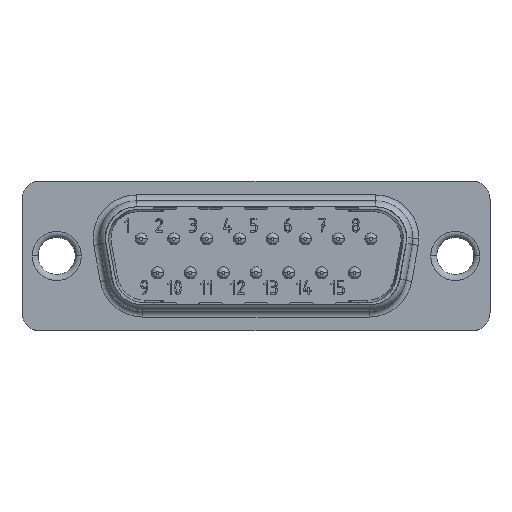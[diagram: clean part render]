
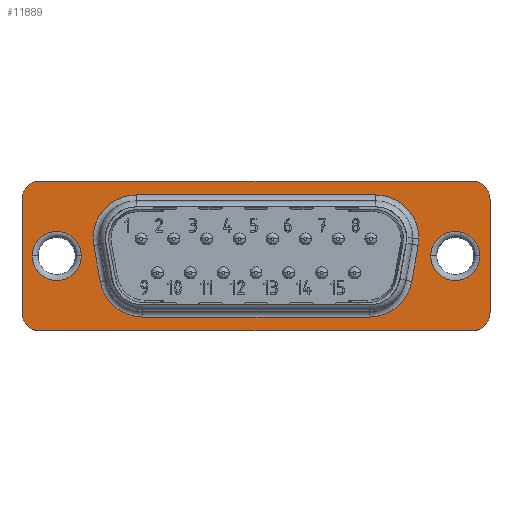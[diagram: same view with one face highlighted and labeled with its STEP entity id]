
A CAD part, top view. The second image highlights one B-rep face of the part: STEP entity #11889.
In plain terms, the highlighted planar face has unit normal (0, 0, 1).
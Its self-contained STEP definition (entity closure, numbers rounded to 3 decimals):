
#11889=ADVANCED_FACE('',(#19796,#19797,#19798,#19799),#13355,.T.);
#13355=PLANE('',#41166);
#15757=LINE('',#53638,#17964);
#15760=LINE('',#53646,#17967);
#15763=LINE('',#53654,#17970);
#15766=LINE('',#53662,#17973);
#15769=LINE('',#53680,#17976);
#15770=LINE('',#53685,#17977);
#15878=LINE('',#54017,#18085);
#15879=LINE('',#54020,#18086);
#17964=VECTOR('',#43949,1.);
#17967=VECTOR('',#43958,1.);
#17970=VECTOR('',#43967,1.);
#17973=VECTOR('',#43976,1.);
#17976=VECTOR('',#44001,1.);
#17977=VECTOR('',#44006,1.);
#18085=VECTOR('',#44326,1.);
#18086=VECTOR('',#44329,1.);
#19796=FACE_BOUND('',#20343,.T.);
#19797=FACE_BOUND('',#20344,.T.);
#19798=FACE_BOUND('',#20345,.T.);
#19799=FACE_BOUND('',#20346,.T.);
#20343=EDGE_LOOP('',(#23576,#23577));
#20344=EDGE_LOOP('',(#23578,#23579));
#20345=EDGE_LOOP('',(#23580,#23581,#23582,#23583,#23584,#23585,#23586,#23587,
#23588));
#20346=EDGE_LOOP('',(#23589,#23590,#23591,#23592,#23593,#23594,#23595,#23596));
#23576=ORIENTED_EDGE('',*,*,#34813,.T.);
#23577=ORIENTED_EDGE('',*,*,#34297,.T.);
#23578=ORIENTED_EDGE('',*,*,#34812,.T.);
#23579=ORIENTED_EDGE('',*,*,#34301,.T.);
#23580=ORIENTED_EDGE('',*,*,#34980,.T.);
#23581=ORIENTED_EDGE('',*,*,#34981,.T.);
#23582=ORIENTED_EDGE('',*,*,#34982,.T.);
#23583=ORIENTED_EDGE('',*,*,#34819,.T.);
#23584=ORIENTED_EDGE('',*,*,#34880,.T.);
#23585=ORIENTED_EDGE('',*,*,#34983,.T.);
#23586=ORIENTED_EDGE('',*,*,#34295,.T.);
#23587=ORIENTED_EDGE('',*,*,#34920,.T.);
#23588=ORIENTED_EDGE('',*,*,#34817,.T.);
#23589=ORIENTED_EDGE('',*,*,#34811,.T.);
#23590=ORIENTED_EDGE('',*,*,#34809,.T.);
#23591=ORIENTED_EDGE('',*,*,#34807,.T.);
#23592=ORIENTED_EDGE('',*,*,#34805,.T.);
#23593=ORIENTED_EDGE('',*,*,#34803,.T.);
#23594=ORIENTED_EDGE('',*,*,#34801,.T.);
#23595=ORIENTED_EDGE('',*,*,#34799,.T.);
#23596=ORIENTED_EDGE('',*,*,#34797,.T.);
#31302=VERTEX_POINT('',#50534);
#31303=VERTEX_POINT('',#50536);
#31304=VERTEX_POINT('',#50540);
#31305=VERTEX_POINT('',#50541);
#31308=VERTEX_POINT('',#50549);
#31309=VERTEX_POINT('',#50550);
#31639=VERTEX_POINT('',#53637);
#31640=VERTEX_POINT('',#53639);
#31641=VERTEX_POINT('',#53643);
#31642=VERTEX_POINT('',#53647);
#31643=VERTEX_POINT('',#53651);
#31644=VERTEX_POINT('',#53655);
#31645=VERTEX_POINT('',#53659);
#31646=VERTEX_POINT('',#53663);
#31647=VERTEX_POINT('',#53675);
#31649=VERTEX_POINT('',#53679);
#31651=VERTEX_POINT('',#53684);
#31652=VERTEX_POINT('',#53686);
#31697=VERTEX_POINT('',#53810);
#31769=VERTEX_POINT('',#54016);
#31770=VERTEX_POINT('',#54018);
#34295=EDGE_CURVE('',#31303,#31302,#38459,.T.);
#34297=EDGE_CURVE('',#31304,#31305,#38461,.T.);
#34301=EDGE_CURVE('',#31308,#31309,#38465,.T.);
#34797=EDGE_CURVE('',#31640,#31639,#15757,.T.);
#34799=EDGE_CURVE('',#31641,#31640,#38514,.T.);
#34801=EDGE_CURVE('',#31642,#31641,#15760,.T.);
#34803=EDGE_CURVE('',#31643,#31642,#38515,.T.);
#34805=EDGE_CURVE('',#31644,#31643,#15763,.T.);
#34807=EDGE_CURVE('',#31645,#31644,#38516,.T.);
#34809=EDGE_CURVE('',#31646,#31645,#15766,.T.);
#34811=EDGE_CURVE('',#31639,#31646,#38517,.T.);
#34812=EDGE_CURVE('',#31309,#31308,#38518,.T.);
#34813=EDGE_CURVE('',#31305,#31304,#38519,.T.);
#34817=EDGE_CURVE('',#31647,#31649,#15769,.T.);
#34819=EDGE_CURVE('',#31652,#31651,#15770,.T.);
#34880=EDGE_CURVE('',#31651,#31697,#38543,.T.);
#34920=EDGE_CURVE('',#31302,#31647,#38557,.T.);
#34980=EDGE_CURVE('',#31649,#31769,#38576,.T.);
#34981=EDGE_CURVE('',#31769,#31770,#15878,.T.);
#34982=EDGE_CURVE('',#31770,#31652,#38577,.T.);
#34983=EDGE_CURVE('',#31697,#31303,#15879,.T.);
#38459=CIRCLE('',#40806,3.6);
#38461=CIRCLE('',#40809,2.05);
#38465=CIRCLE('',#40814,2.05);
#38514=CIRCLE('',#41038,1.5);
#38515=CIRCLE('',#41041,1.5);
#38516=CIRCLE('',#41044,1.5);
#38517=CIRCLE('',#41047,1.5);
#38518=CIRCLE('',#41051,2.05);
#38519=CIRCLE('',#41053,2.05);
#38543=CIRCLE('',#41098,3.6);
#38557=CIRCLE('',#41125,3.6);
#38576=CIRCLE('',#41164,3.6);
#38577=CIRCLE('',#41165,3.6);
#40806=AXIS2_PLACEMENT_3D('',#50535,#43320,#43321);
#40809=AXIS2_PLACEMENT_3D('',#50539,#43326,#43327);
#40814=AXIS2_PLACEMENT_3D('',#50548,#43336,#43337);
#41038=AXIS2_PLACEMENT_3D('',#53642,#43953,#43954);
#41041=AXIS2_PLACEMENT_3D('',#53650,#43962,#43963);
#41044=AXIS2_PLACEMENT_3D('',#53658,#43971,#43972);
#41047=AXIS2_PLACEMENT_3D('',#53666,#43980,#43981);
#41051=AXIS2_PLACEMENT_3D('',#53670,#43988,#43989);
#41053=AXIS2_PLACEMENT_3D('',#53672,#43992,#43993);
#41098=AXIS2_PLACEMENT_3D('',#53811,#44125,#44126);
#41125=AXIS2_PLACEMENT_3D('',#53892,#44205,#44206);
#41164=AXIS2_PLACEMENT_3D('',#54015,#44324,#44325);
#41165=AXIS2_PLACEMENT_3D('',#54019,#44327,#44328);
#41166=AXIS2_PLACEMENT_3D('',#54021,#44330,#44331);
#43320=DIRECTION('',(0.,0.,-1.));
#43321=DIRECTION('',(1.,0.,0.));
#43326=DIRECTION('',(0.,0.,-1.));
#43327=DIRECTION('',(1.,0.,0.));
#43336=DIRECTION('',(0.,0.,-1.));
#43337=DIRECTION('',(1.,0.,0.));
#43949=DIRECTION('',(0.,1.,0.));
#43953=DIRECTION('',(0.,0.,1.));
#43954=DIRECTION('',(-1.,0.,0.));
#43958=DIRECTION('',(1.,0.,0.));
#43962=DIRECTION('',(0.,0.,1.));
#43963=DIRECTION('',(1.,0.,0.));
#43967=DIRECTION('',(0.,-1.,0.));
#43971=DIRECTION('',(0.,0.,1.));
#43972=DIRECTION('',(1.,0.,0.));
#43976=DIRECTION('',(-1.,0.,0.));
#43980=DIRECTION('',(0.,0.,1.));
#43981=DIRECTION('',(1.,0.,0.));
#43988=DIRECTION('',(0.,0.,-1.));
#43989=DIRECTION('',(1.,0.,0.));
#43992=DIRECTION('',(0.,0.,-1.));
#43993=DIRECTION('',(1.,0.,0.));
#44001=DIRECTION('',(-0.174,-0.985,0.));
#44006=DIRECTION('',(-0.174,0.985,0.));
#44125=DIRECTION('',(0.,0.,-1.));
#44126=DIRECTION('',(1.,0.,0.));
#44205=DIRECTION('',(0.,0.,-1.));
#44206=DIRECTION('',(1.,0.,0.));
#44324=DIRECTION('',(0.,0.,-1.));
#44325=DIRECTION('',(1.,0.,0.));
#44326=DIRECTION('',(-1.,0.,0.));
#44327=DIRECTION('',(0.,0.,-1.));
#44328=DIRECTION('',(1.,0.,0.));
#44329=DIRECTION('',(1.,0.,0.));
#44330=DIRECTION('',(0.,0.,1.));
#44331=DIRECTION('',(1.,0.,0.));
#50534=CARTESIAN_POINT('',(13.6,1.5,0.5));
#50535=CARTESIAN_POINT('',(10.,1.5,0.5));
#50536=CARTESIAN_POINT('',(10.,5.1,0.5));
#50539=CARTESIAN_POINT('',(16.65,0.,0.5));
#50540=CARTESIAN_POINT('',(14.6,0.,0.5));
#50541=CARTESIAN_POINT('',(18.7,0.,0.5));
#50548=CARTESIAN_POINT('',(-16.65,0.,0.5));
#50549=CARTESIAN_POINT('',(-18.7,0.,0.5));
#50550=CARTESIAN_POINT('',(-14.6,0.,0.5));
#53637=CARTESIAN_POINT('',(19.55,4.75,0.5));
#53638=CARTESIAN_POINT('',(19.55,4.75,0.5));
#53639=CARTESIAN_POINT('',(19.55,-4.75,0.5));
#53642=CARTESIAN_POINT('',(18.05,-4.75,0.5));
#53643=CARTESIAN_POINT('',(18.05,-6.25,0.5));
#53646=CARTESIAN_POINT('',(-18.05,-6.25,0.5));
#53647=CARTESIAN_POINT('',(-18.05,-6.25,0.5));
#53650=CARTESIAN_POINT('',(-18.05,-4.75,0.5));
#53651=CARTESIAN_POINT('',(-19.55,-4.75,0.5));
#53654=CARTESIAN_POINT('',(-19.55,4.75,0.5));
#53655=CARTESIAN_POINT('',(-19.55,4.75,0.5));
#53658=CARTESIAN_POINT('',(-18.05,4.75,0.5));
#53659=CARTESIAN_POINT('',(-18.05,6.25,0.5));
#53662=CARTESIAN_POINT('',(-18.05,6.25,0.5));
#53663=CARTESIAN_POINT('',(18.05,6.25,0.5));
#53666=CARTESIAN_POINT('',(18.05,4.75,0.5));
#53670=CARTESIAN_POINT('',(-16.65,0.,0.5));
#53672=CARTESIAN_POINT('',(16.65,0.,0.5));
#53675=CARTESIAN_POINT('',(13.545,0.875,0.5));
#53679=CARTESIAN_POINT('',(13.016,-2.125,0.5));
#53680=CARTESIAN_POINT('',(14.344,5.403,0.5));
#53684=CARTESIAN_POINT('',(-13.545,0.875,0.5));
#53685=CARTESIAN_POINT('',(-13.255,-0.77,0.5));
#53686=CARTESIAN_POINT('',(-13.016,-2.125,0.5));
#53810=CARTESIAN_POINT('',(-10.,5.1,0.5));
#53811=CARTESIAN_POINT('',(-10.,1.5,0.5));
#53892=CARTESIAN_POINT('',(10.,1.5,0.5));
#54015=CARTESIAN_POINT('',(9.471,-1.5,0.5));
#54016=CARTESIAN_POINT('',(9.471,-5.1,0.5));
#54017=CARTESIAN_POINT('',(18.05,-5.1,0.5));
#54018=CARTESIAN_POINT('',(-9.471,-5.1,0.5));
#54019=CARTESIAN_POINT('',(-9.471,-1.5,0.5));
#54020=CARTESIAN_POINT('',(10.,5.1,0.5));
#54021=CARTESIAN_POINT('',(18.05,4.75,0.5));
